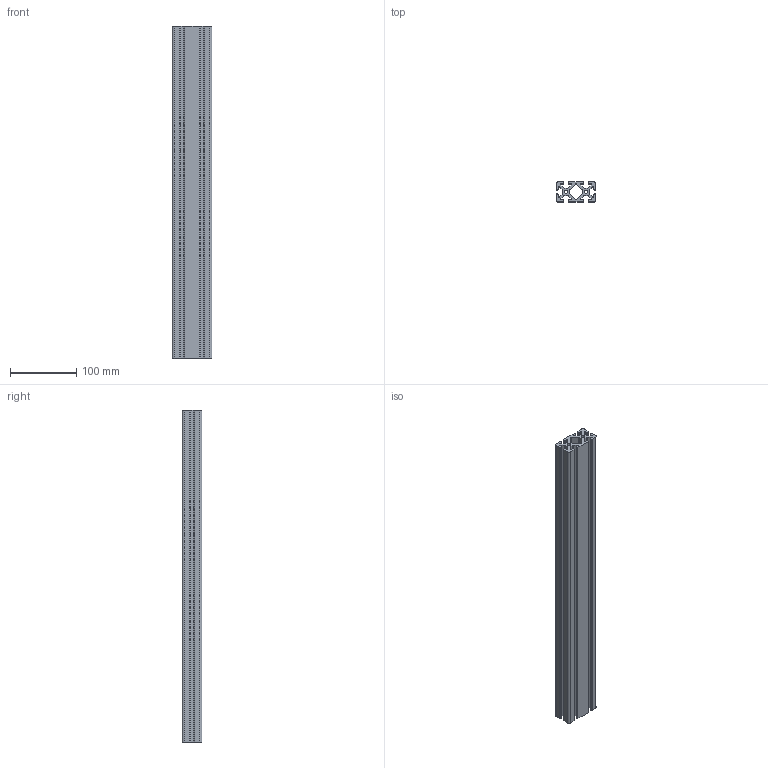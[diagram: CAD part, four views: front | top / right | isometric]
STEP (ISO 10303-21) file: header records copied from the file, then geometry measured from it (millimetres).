
FILE_DESCRIPTION (( 'STEP AP203' ), '1' );
FILE_NAME ('M ATP I6 3060.STEP', '2012-06-04T09:16:37', ( 'alle' ), ( 'Hewlett-Packard Company' ), 'SwSTEP 2.0', 'SolidWorks 2011', '' );
FILE_SCHEMA (( 'CONFIG_CONTROL_DESIGN' ));
Length unit declared in the file: millimetre
Products named in the file (1): M ATP I6 3060
Bounding box: 60 x 30 x 500 mm (x, y, z)
Volume: 416062.7 mm3; surface area: 229066.8 mm2
Topology: 1 solids, 1 shells, 126 faces, 372 edges, 248 vertices
Faces by surface type: cylinder 66, plane 60
Entity records: 4337 total; most frequent: DIRECTION 758, CARTESIAN_POINT 747, ORIENTED_EDGE 744, EDGE_CURVE 372, AXIS2_PLACEMENT_3D 259, VERTEX_POINT 248, VECTOR 240, LINE 240
